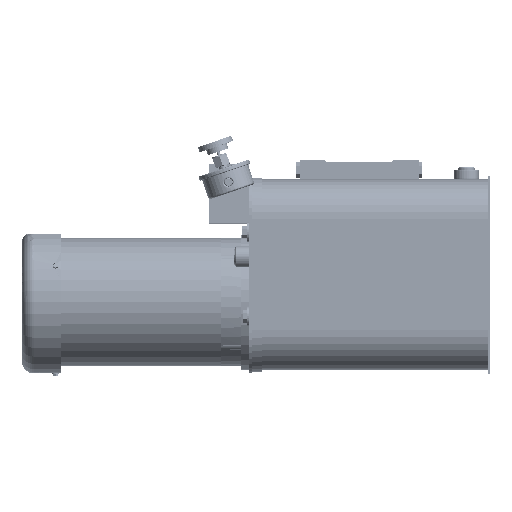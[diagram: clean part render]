
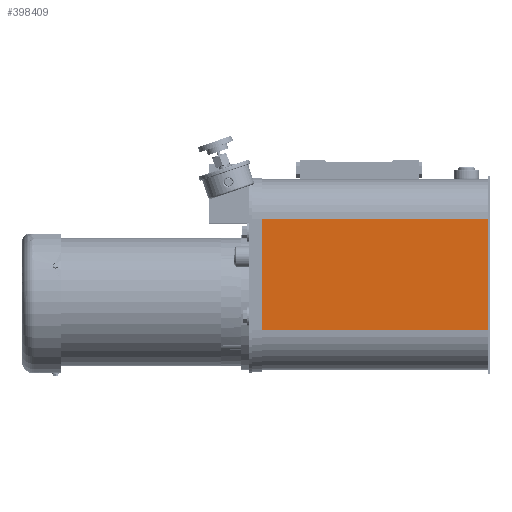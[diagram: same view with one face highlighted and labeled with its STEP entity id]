
A CAD part, top view. The second image highlights one B-rep face of the part: STEP entity #398409.
In plain terms, the highlighted planar face has unit normal (0, 0, 1).
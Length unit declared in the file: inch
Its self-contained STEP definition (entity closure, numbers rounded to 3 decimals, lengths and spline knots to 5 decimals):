
#15244 = CARTESIAN_POINT ( 'NONE',  ( 4.60145, 11.15089, 15.4593 ) ) ;
#29350 = AXIS2_PLACEMENT_3D ( 'NONE', #258998, #222046, #365029 ) ;
#31718 = ORIENTED_EDGE ( 'NONE', *, *, #60510, .F. ) ;
#60510 = EDGE_CURVE ( 'NONE', #355640, #322167, #245013, .T. ) ;
#62272 = DIRECTION ( 'NONE',  ( 1., 0., 0. ) ) ;
#95270 = ORIENTED_EDGE ( 'NONE', *, *, #335657, .T. ) ;
#96237 = ORIENTED_EDGE ( 'NONE', *, *, #203634, .F. ) ;
#99788 = EDGE_CURVE ( 'NONE', #382848, #130942, #256151, .T. ) ;
#120159 = DIRECTION ( 'NONE',  ( 1., 0., 0. ) ) ;
#129329 = CARTESIAN_POINT ( 'NONE',  ( 4.60145, 5.52589, 15.4593 ) ) ;
#130942 = VERTEX_POINT ( 'NONE', #174396 ) ;
#144641 = LINE ( 'NONE', #170710, #286192 ) ;
#149876 = CARTESIAN_POINT ( 'NONE',  ( 4.47645, 11.15089, 15.4593 ) ) ;
#170710 = CARTESIAN_POINT ( 'NONE',  ( 4.47645, 5.52589, 15.4593 ) ) ;
#174396 = CARTESIAN_POINT ( 'NONE',  ( 16.35685, 11.15089, 15.4593 ) ) ;
#181501 = VECTOR ( 'NONE', #469312, 39.37008 ) ;
#203634 = EDGE_CURVE ( 'NONE', #322167, #130942, #265599, .T. ) ;
#209605 = VECTOR ( 'NONE', #120159, 39.37008 ) ;
#211924 = DIRECTION ( 'NONE',  ( 0., 1., 0. ) ) ;
#222046 = DIRECTION ( 'NONE',  ( 0., 0., 1. ) ) ;
#245013 = LINE ( 'NONE', #129329, #181501 ) ;
#251694 = PLANE ( 'NONE',  #29350 ) ;
#256151 = LINE ( 'NONE', #293168, #267188 ) ;
#258998 = CARTESIAN_POINT ( 'NONE',  ( 4.47645, 5.52589, 15.4593 ) ) ;
#265599 = LINE ( 'NONE', #149876, #209605 ) ;
#267188 = VECTOR ( 'NONE', #211924, 39.37008 ) ;
#286192 = VECTOR ( 'NONE', #62272, 39.37008 ) ;
#293168 = CARTESIAN_POINT ( 'NONE',  ( 16.35685, 13.33839, 15.4593 ) ) ;
#298439 = FACE_OUTER_BOUND ( 'NONE', #371227, .T. ) ;
#312270 = CARTESIAN_POINT ( 'NONE',  ( 16.35685, 5.52589, 15.4593 ) ) ;
#314394 = ORIENTED_EDGE ( 'NONE', *, *, #99788, .T. ) ;
#322167 = VERTEX_POINT ( 'NONE', #15244 ) ;
#335657 = EDGE_CURVE ( 'NONE', #355640, #382848, #144641, .T. ) ;
#355640 = VERTEX_POINT ( 'NONE', #441540 ) ;
#365029 = DIRECTION ( 'NONE',  ( 0., 1., 0. ) ) ;
#371227 = EDGE_LOOP ( 'NONE', ( #96237, #31718, #95270, #314394 ) ) ;
#382848 = VERTEX_POINT ( 'NONE', #312270 ) ;
#398409 = ADVANCED_FACE ( 'NONE', ( #298439 ), #251694, .T. ) ;
#441540 = CARTESIAN_POINT ( 'NONE',  ( 4.60145, 5.52589, 15.4593 ) ) ;
#469312 = DIRECTION ( 'NONE',  ( 0., 1., 0. ) ) ;
